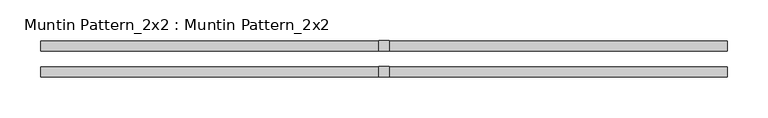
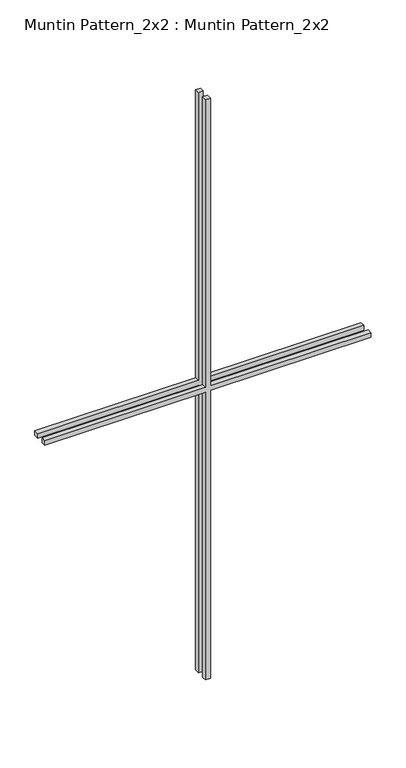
"""IFC4 building model written with IfcOpenShell, lengths in millimetres: proxy geometry, Muntin Pattern_2x2 : Muntin Pattern_2x2."""

from ifc_helpers import new_model, si_unit, frame, origin, place, context, project, spatial, polyline, outline, extrude, source, transform, mapped, element, save


def muntin_pattern_2x2_muntin_pattern_2x2_e2e8fc56(model_context):
    return source(origin(), model_context, "Body", "SweptSolid", [
        extrude(outline(polyline([(793.75, -6.35), (793.75, -419.1), (781.05, -419.1), (781.05, -6.35), (0.0, -6.35), (0.0, 6.35), (781.05, 6.35), (781.05, 419.1), (793.75, 419.1), (793.75, 6.35), (1574.8, 6.35), (1574.8, -6.35), (793.75, -6.35)])), frame((0.0, -22.225, 0.0), z_axis=(0.0, 1.0, 0.0), x_axis=(0.0, 0.0, 1.0)), (0.0, 0.0, 1.0), 12.7),
        extrude(outline(polyline([(793.75, -6.35), (793.75, -419.1), (781.05, -419.1), (781.05, -6.35), (0.0, -6.35), (0.0, 6.35), (781.05, 6.35), (781.05, 419.1), (793.75, 419.1), (793.75, 6.35), (1574.8, 6.35), (1574.8, -6.35), (793.75, -6.35)])), frame((0.0, 9.525, 0.0), z_axis=(0.0, 1.0, 0.0), x_axis=(0.0, 0.0, 1.0)), (0.0, 0.0, 1.0), 12.7),
    ])


if __name__ == "__main__":
    model = new_model("IFC4")
    model_context = context("Model", 3, world=origin())
    ifc_project = project(units=[si_unit("LENGTHUNIT", "METRE", prefix="MILLI")], contexts=[model_context])
    site = spatial("IfcSite", under=ifc_project)
    building = spatial("IfcBuilding", under=site)
    placement = place(None, origin())
    muntin_pattern_2x2_muntin_pattern_2x2_shape = muntin_pattern_2x2_muntin_pattern_2x2_e2e8fc56(model_context)
    element("IfcBuildingElementProxy", 1, Name="Muntin Pattern_2x2 : Muntin Pattern_2x2", ObjectType="Muntin Pattern_2x2 : Muntin Pattern_2x2", at=placement, inside=building, context=model_context, shape_type="MappedRepresentation", body=[
        mapped(muntin_pattern_2x2_muntin_pattern_2x2_shape, transform((0.0, 0.0, 0.0), x_axis=(1.0, 0.0, 0.0), y_axis=(0.0, 1.0, 0.0), z_axis=(0.0, 0.0, 1.0))),
    ])
    save(model, "model.ifc")
